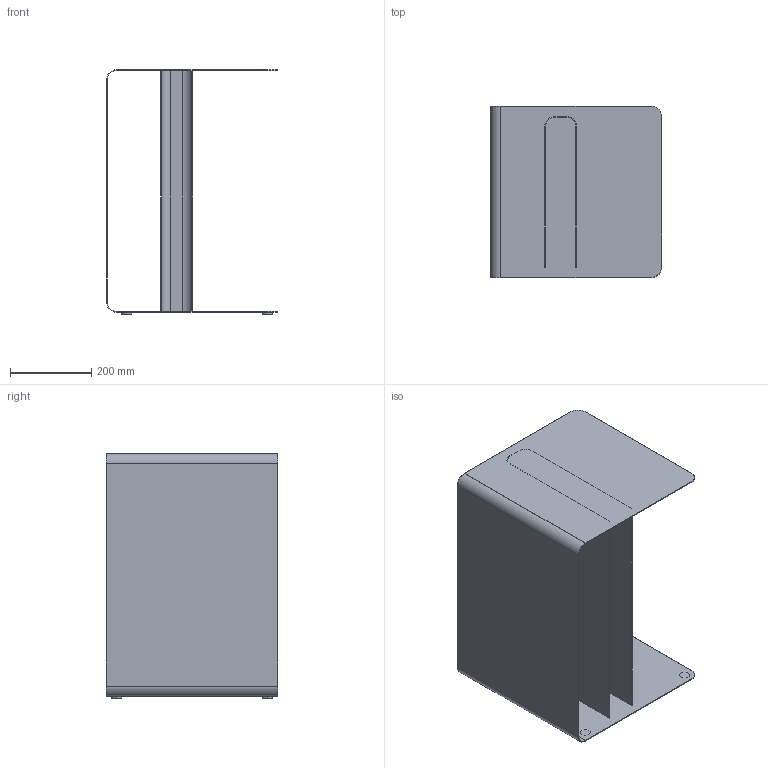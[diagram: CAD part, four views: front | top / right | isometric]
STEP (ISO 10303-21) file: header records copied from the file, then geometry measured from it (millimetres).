
FILE_DESCRIPTION (( 'STEP AP214' ), '1' );
FILE_NAME ('BEND_H 595_20231025.STEP', '2023-10-25T08:53:06', ( '' ), ( '' ), 'SwSTEP 2.0', 'SolidWorks 2021', '' );
FILE_SCHEMA (( 'AUTOMOTIVE_DESIGN' ));
Length unit declared in the file: millimetre
Products named in the file (1): BEND_H 595_20231025
Bounding box: 420 x 420 x 600 mm (x, y, z)
Volume: 2132162.2 mm3; surface area: 2140618.8 mm2
Topology: 6 solids, 6 shells, 48 faces, 108 edges, 72 vertices
Faces by surface type: plane 28, cylinder 20
Entity records: 1431 total; most frequent: DIRECTION 246, CARTESIAN_POINT 229, ORIENTED_EDGE 216, EDGE_CURVE 108, AXIS2_PLACEMENT_3D 89, VERTEX_POINT 72, VECTOR 68, LINE 68
